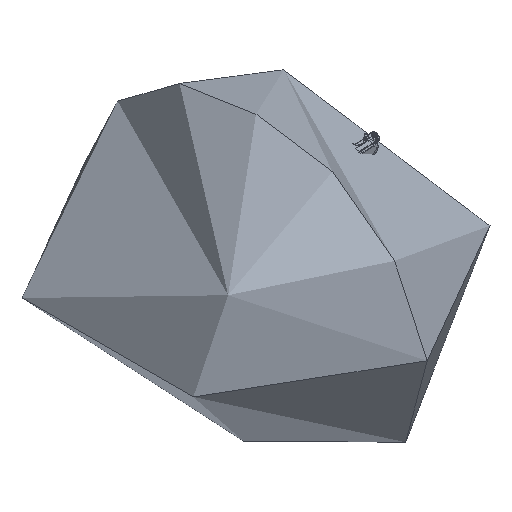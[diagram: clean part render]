
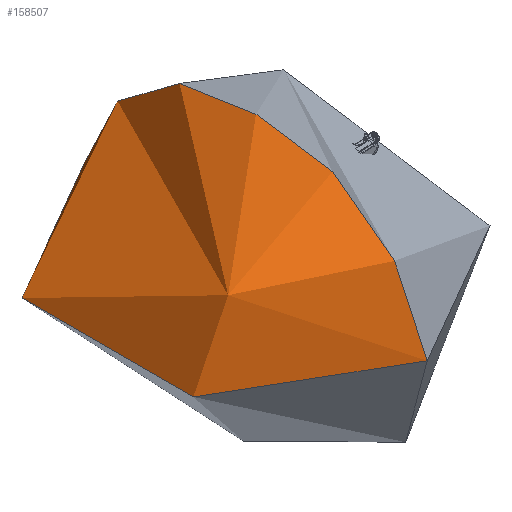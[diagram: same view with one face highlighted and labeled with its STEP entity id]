
A CAD part, isometric view. The second image highlights one B-rep face of the part: STEP entity #158507.
In plain terms, the highlighted free-form (B-spline) face has degree [3, 3] with [4, 4] control points.
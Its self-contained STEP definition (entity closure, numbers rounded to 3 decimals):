
#6618 = CARTESIAN_POINT ( 'NONE',  ( 0., 1179.892, -2973.971 ) ) ;
#24471 = CARTESIAN_POINT ( 'NONE',  ( 0., 1179.892, 0. ) ) ;
#35561 = ORIENTED_EDGE ( 'NONE', *, *, #248083, .F. ) ;
#51617 =( BOUNDED_SURFACE ( )  B_SPLINE_SURFACE ( 3, 3, ( 
 ( #458548, #407808, #377243, #6618 ),
 ( #318235, #330537, #364953, #145158 ),
 ( #332526, #468835, #470834, #143161 ),
 ( #179758, #269350, #281623, #562485 ) ),
 .UNSPECIFIED., .F., .F., .T. ) 
 B_SPLINE_SURFACE_WITH_KNOTS ( ( 4, 4 ),
 ( 4, 4 ),
 ( 0., 1. ),
 ( 0., 1. ),
 .UNSPECIFIED. ) 
 GEOMETRIC_REPRESENTATION_ITEM ( )  RATIONAL_B_SPLINE_SURFACE ( (
 ( 1., 0.333, 0.333, 1.),
 ( 0.828, 0.276, 0.276, 0.828),
 ( 0.828, 0.276, 0.276, 0.828),
 ( 1., 0.333, 0.333, 1.) ) ) 
 REPRESENTATION_ITEM ( '' )  SURFACE ( )  );
#61839 = CIRCLE ( 'NONE', #594546, 2766. ) ;
#63321 = AXIS2_PLACEMENT_3D ( 'NONE', #24471, #116176, #209807 ) ;
#100320 = AXIS2_PLACEMENT_3D ( 'NONE', #242999, #172942, #284468 ) ;
#104720 = VERTEX_POINT ( 'NONE', #584368 ) ;
#105091 = CARTESIAN_POINT ( 'NONE',  ( 0., 1179.892, 2973.971 ) ) ;
#116176 = DIRECTION ( 'NONE',  ( 0., -1., 0. ) ) ;
#143161 = CARTESIAN_POINT ( 'NONE',  ( 0., 3539.868, -1487.727 ) ) ;
#145158 = CARTESIAN_POINT ( 'NONE',  ( 0., 2646.098, -2685.328 ) ) ;
#158507 = ADVANCED_FACE ( 'N', ( #179497 ), #51617, .T. ) ;
#160840 = CIRCLE ( 'NONE', #100320, 2766. ) ;
#172942 = DIRECTION ( 'NONE',  ( -1., 0., 0. ) ) ;
#173556 = CARTESIAN_POINT ( 'NONE',  ( 0., 1179.892, -2973.971 ) ) ;
#179497 = FACE_OUTER_BOUND ( 'NONE', #304128, .T. ) ;
#179758 = CARTESIAN_POINT ( 'NONE',  ( 0., 3399.369, 0. ) ) ;
#209807 = DIRECTION ( 'NONE',  ( 0., 0., -1. ) ) ;
#242999 = CARTESIAN_POINT ( 'NONE',  ( 0., 645.622, 260.06 ) ) ;
#248083 = EDGE_CURVE ( 'NONE', #409895, #104720, #61839, .T. ) ;
#253558 = DIRECTION ( 'NONE',  ( 0., 0., -1. ) ) ;
#256163 = VERTEX_POINT ( 'NONE', #105091 ) ;
#269350 = CARTESIAN_POINT ( 'NONE',  ( 0., 3399.369, 0. ) ) ;
#281623 = CARTESIAN_POINT ( 'NONE',  ( 0., 3399.369, 0. ) ) ;
#284468 = DIRECTION ( 'NONE',  ( 0., 0., 1. ) ) ;
#290944 = EDGE_CURVE ( 'NONE', #256163, #409895, #379018, .T. ) ;
#304128 = EDGE_LOOP ( 'NONE', ( #604473, #390498, #35561 ) ) ;
#318235 = CARTESIAN_POINT ( 'NONE',  ( 0., 2646.098, 2685.328 ) ) ;
#330537 = CARTESIAN_POINT ( 'NONE',  ( -5370.656, 2646.098, 2685.328 ) ) ;
#332526 = CARTESIAN_POINT ( 'NONE',  ( 0., 3539.868, 1487.727 ) ) ;
#353225 = DIRECTION ( 'NONE',  ( 1., 0., 0. ) ) ;
#364953 = CARTESIAN_POINT ( 'NONE',  ( -5370.656, 2646.098, -2685.328 ) ) ;
#377243 = CARTESIAN_POINT ( 'NONE',  ( -5947.941, 1179.892, -2973.971 ) ) ;
#379018 = CIRCLE ( 'NONE', #63321, 2973.971 ) ;
#390498 = ORIENTED_EDGE ( 'NONE', *, *, #402626, .T. ) ;
#402626 = EDGE_CURVE ( 'NONE', #256163, #104720, #160840, .T. ) ;
#407808 = CARTESIAN_POINT ( 'NONE',  ( -5947.941, 1179.892, 2973.971 ) ) ;
#409895 = VERTEX_POINT ( 'NONE', #173556 ) ;
#438831 = CARTESIAN_POINT ( 'NONE',  ( 0., 645.622, -260.06 ) ) ;
#458548 = CARTESIAN_POINT ( 'NONE',  ( 0., 1179.892, 2973.971 ) ) ;
#468835 = CARTESIAN_POINT ( 'NONE',  ( -2975.455, 3539.868, 1487.727 ) ) ;
#470834 = CARTESIAN_POINT ( 'NONE',  ( -2975.455, 3539.868, -1487.727 ) ) ;
#562485 = CARTESIAN_POINT ( 'NONE',  ( 0., 3399.369, 0. ) ) ;
#584368 = CARTESIAN_POINT ( 'NONE',  ( 0., 3399.369, 0. ) ) ;
#594546 = AXIS2_PLACEMENT_3D ( 'NONE', #438831, #353225, #253558 ) ;
#604473 = ORIENTED_EDGE ( 'NONE', *, *, #290944, .F. ) ;
